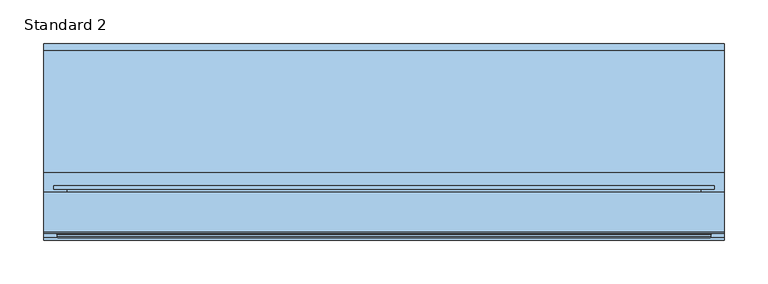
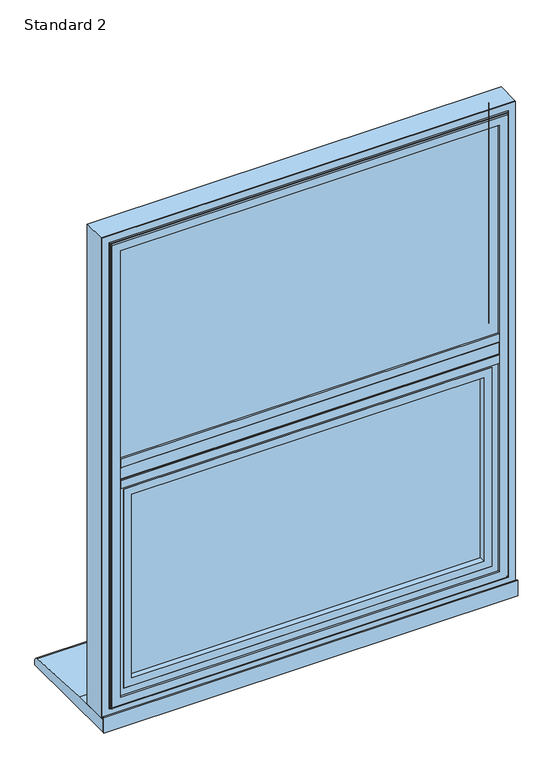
"""IFC4 building model written with IfcOpenShell, lengths in millimetres: window geometry, SMARTS_AlithermHeritage : Standard 2."""

from ifc_helpers import new_model, si_unit, point, frame, frame_2d, origin, place, context, project, spatial, polyline, circle_curve, ellipse_curve, trimmed, segment, composite_curve, outline, extrude, faceted_brep, source, transform, mapped, element, save
from ifc_brep_helpers import plane_surface, cylinder_surface, revolved_surface, advanced_brep


def standard_2_5900fd49(model_context):
    return source(origin(), model_context, "Body", "SolidModel", [
        extrude(outline(polyline([(372.3058544, 95.2798432), (372.3058544, 47.279476), (-372.3058544, 47.279476), (-372.3058544, 95.2798432), (372.3058544, 95.2798432)])), frame((0.0, 0.0, 1098.8058544), z_axis=(0.0, 0.0, 1.0), x_axis=(1.0, 0.0, 0.0)), (0.0, 0.0, 1.0), 27.3882911),
        extrude(outline(composite_curve([segment(polyline([(47.279476, 1083.5), (43.2798432, 1083.5), (43.2798432, 1099.5)]), True, "CONTINUOUS"), segment(trimmed(circle_curve(frame_2d((44.2798432, 1099.5)), 1.0), [point((43.2798432, 1099.5))], [point((44.2798432, 1100.5))], False, "CARTESIAN"), True, "CONTINUOUS"), segment(polyline([(44.2798432, 1100.5), (45.7798432, 1100.5), (45.7798432, 1124.5), (44.2798432, 1124.5)]), True, "CONTINUOUS"), segment(trimmed(circle_curve(frame_2d((44.2798432, 1125.5)), 1.0), [point((44.2798432, 1124.5))], [point((43.2798432, 1125.5))], False, "CARTESIAN"), True, "CONTINUOUS"), segment(polyline([(43.2798432, 1125.5), (43.2798432, 1141.5), (47.279476, 1141.5), (47.279476, 1083.5)]), True, "CONTINUOUS")], self_intersect=False)), frame((-357.0, 0.0, 0.0), z_axis=(1.0, 0.0, 0.0), x_axis=(0.0, 1.0, 0.0)), (0.0, 0.0, 1.0), 714.0),
        extrude(outline(polyline([(-343.5, 89.2798432), (343.5, 89.2798432), (343.5, 85.2798432), (-343.5, 85.2798432), (-343.5, 89.2798432)])), frame((0.0, 0.0, 681.5), z_axis=(0.0, 0.0, 1.0), x_axis=(1.0, 0.0, 0.0)), (0.0, 0.0, 1.0), 388.5),
        extrude(outline(polyline([(-343.5, 69.2798432), (343.5, 69.2798432), (343.5, 65.2798432), (-343.5, 65.2798432), (-343.5, 69.2798432)])), frame((0.0, 0.0, 681.5), z_axis=(0.0, 0.0, 1.0), x_axis=(1.0, 0.0, 0.0)), (0.0, 0.0, 1.0), 388.5),
        extrude(outline(polyline([(1070.0, -343.5), (681.5, -343.5), (681.5, 343.5), (1070.0, 343.5), (1070.0, -343.5)]), holes=[polyline([(1060.0, 333.5), (691.5, 333.5), (691.5, -333.5), (1060.0, -333.5), (1060.0, 333.5)])]), frame((0.0, 69.2798432, 0.0), z_axis=(0.0, 1.0, 0.0), x_axis=(0.0, 0.0, 1.0)), (0.0, 0.0, 1.0), 16.0),
        extrude(outline(polyline([(1073.5052956, -347.0052956), (677.9947044, -347.0052956), (677.9947044, 347.0052956), (1073.5052956, 347.0052956), (1073.5052956, -347.0052956)]), holes=[polyline([(1058.5, 332.0), (693.0, 332.0), (693.0, -332.0), (1058.5, -332.0), (1058.5, 332.0)])]), frame((0.0, 51.2798432, 0.0), z_axis=(0.0, 1.0, 0.0), x_axis=(0.0, 0.0, 1.0)), (0.0, 0.0, 1.0), 11.3),
        extrude(outline(polyline([(662.3548042, -362.6451958), (662.3548042, 362.6451958), (1089.1451958, 362.6451958), (1089.1451958, -362.6451958), (662.3548042, -362.6451958)]), holes=[polyline([(1073.5, -347.0), (1073.5, 347.0), (678.0, 347.0), (678.0, -347.0), (1073.5, -347.0)])]), frame((0.0, 51.2798432, 0.0), z_axis=(0.0, 1.0, 0.0), x_axis=(0.0, 0.0, 1.0)), (0.0, 0.0, 1.0), 41.6),
        advanced_brep(
        [(-332.0, 98.0798432, 1058.5), (-332.0, 92.8798432, 1058.5), (-332.0, 92.8798432, 693.0), (-332.0, 98.0798432, 693.0), (332.0, 92.8798432, 693.0), (332.0, 98.0798432, 693.0), (332.0, 92.8798432, 1058.5), (332.0, 98.0798432, 1058.5), (-378.2, 99.2798432, 1104.7), (-378.2, 103.2798432, 1104.7), (-378.2, 103.2798432, 646.8), (-378.2, 99.2798432, 646.8), (378.2, 103.2798432, 646.8), (378.2, 99.2798432, 646.8), (378.2, 103.2798432, 1104.7), (378.2, 99.2798432, 1104.7), (-363.1467657, 99.2798432, 1089.6467657), (363.1467657, 99.2798432, 1089.6467657), (363.1467657, 99.2798432, 661.8532343), (-363.1467657, 99.2798432, 661.8532343), (-349.2, 103.2798432, 675.8), (349.2, 103.2798432, 675.8), (349.2, 103.2798432, 1075.7), (-349.2, 103.2798432, 1075.7), (-363.1467657, 92.8798432, 1089.6467657), (-363.1467657, 92.8798432, 661.8532343), (363.1467657, 92.8798432, 661.8532343), (363.1467657, 92.8798432, 1089.6467657), (-347.2, 101.2798432, 1073.7), (-347.2, 100.0798432, 1073.7), (-347.2, 100.0798432, 677.8), (-347.2, 101.2798432, 677.8), (-345.2, 98.0798432, 1071.7), (-345.2, 98.0798432, 679.8), (347.2, 100.0798432, 677.8), (347.2, 101.2798432, 677.8), (345.2, 98.0798432, 679.8), (347.2, 100.0798432, 1073.7), (347.2, 101.2798432, 1073.7), (345.2, 98.0798432, 1071.7)],
        [
            (0, 1),
            (1, 2),
            (2, 3),
            (3, 0),
            (2, 4),
            (4, 5),
            (5, 3),
            (4, 6),
            (6, 7),
            (7, 5),
            (6, 1),
            (0, 7),
            (8, 9),
            (9, 10),
            (10, 11),
            (11, 8),
            (10, 12),
            (12, 13),
            (13, 11),
            (12, 14),
            (14, 15),
            (15, 13),
            (15, 8),
            (16, 17),
            (17, 18),
            (18, 19),
            (19, 16),
            (14, 9),
            (20, 21),
            (21, 22),
            (22, 23),
            (23, 20),
            (24, 16),
            (19, 25),
            (25, 24),
            (18, 26),
            (26, 25),
            (17, 27),
            (27, 26),
            (27, 24),
            (28, 29),
            (29, 30),
            (30, 31),
            (31, 28),
            (29, 32, ellipse_curve(frame((-345.2, 100.0798432, 1071.7), z_axis=(0.7071067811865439, 0.0, 0.7071067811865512), x_axis=(0.7071067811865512, 0.0, -0.7071067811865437)), 2.8284271, 2.0)),
            (32, 33),
            (33, 30, ellipse_curve(frame((-345.2, 100.0798432, 679.8), z_axis=(0.7071067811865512, 0.0, -0.7071067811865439), x_axis=(-0.7071067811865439, 0.0, -0.707106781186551)), 2.8284271, 2.0)),
            (30, 34),
            (34, 35),
            (35, 31),
            (33, 36),
            (36, 34, ellipse_curve(frame((345.2, 100.0798432, 679.8), z_axis=(0.7071067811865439, 0.0, 0.7071067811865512), x_axis=(0.707106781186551, 0.0, -0.7071067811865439)), 2.8284271, 2.0)),
            (34, 37),
            (37, 38),
            (38, 35),
            (36, 39),
            (39, 37, ellipse_curve(frame((345.2, 100.0798432, 1071.7), z_axis=(-0.7071067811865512, 0.0, 0.7071067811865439), x_axis=(0.7071067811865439, 0.0, 0.707106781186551)), 2.8284271, 2.0)),
            (32, 39),
            (37, 29),
            (28, 38),
            (23, 28, ellipse_curve(frame((-349.2, 101.2798432, 1075.7), z_axis=(-0.7071067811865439, 0.0, -0.7071067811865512), x_axis=(-0.7071067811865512, 0.0, 0.7071067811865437)), 2.8284271, 2.0)),
            (31, 20, ellipse_curve(frame((-349.2, 101.2798432, 675.8), z_axis=(-0.7071067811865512, 0.0, 0.7071067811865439), x_axis=(0.7071067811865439, 0.0, 0.707106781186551)), 2.8284271, 2.0)),
            (35, 21, ellipse_curve(frame((349.2, 101.2798432, 675.8), z_axis=(-0.7071067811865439, 0.0, -0.7071067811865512), x_axis=(-0.707106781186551, 0.0, 0.7071067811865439)), 2.8284271, 2.0)),
            (38, 22, ellipse_curve(frame((349.2, 101.2798432, 1075.7), z_axis=(0.7071067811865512, 0.0, -0.7071067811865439), x_axis=(-0.7071067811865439, 0.0, -0.707106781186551)), 2.8284271, 2.0)),
        ],
        [
            plane_surface(frame((-332.0, 92.8798432, 1058.5), z_axis=(1.0, 0.0, 0.0), x_axis=(0.0, 0.0, -1.0))),
            plane_surface(frame((-332.0, 92.8798432, 693.0), z_axis=(0.0, 0.0, 1.0), x_axis=(1.0, 0.0, 0.0))),
            plane_surface(frame((332.0, 92.8798432, 693.0), z_axis=(-1.0, 0.0, 0.0), x_axis=(0.0, 0.0, 1.0))),
            plane_surface(frame((332.0, 92.8798432, 1058.5), z_axis=(0.0, 0.0, -1.0), x_axis=(-1.0, 0.0, 0.0))),
            plane_surface(frame((-378.2, 103.2798432, 1104.7), z_axis=(-1.0, 0.0, 0.0), x_axis=(0.0, 0.0, -1.0))),
            plane_surface(frame((-378.2, 103.2798432, 646.8), z_axis=(0.0, 0.0, -1.0), x_axis=(1.0, 0.0, 0.0))),
            plane_surface(frame((378.2, 103.2798432, 646.8), z_axis=(1.0, 0.0, 0.0), x_axis=(0.0, 0.0, 1.0))),
            plane_surface(frame((378.2, 99.2798432, 1104.7), z_axis=(0.0, -1.0, 0.0), x_axis=(-1.0, 0.0, 0.0))),
            plane_surface(frame((378.2, 103.2798432, 1104.7), z_axis=(0.0, 0.0, 1.0), x_axis=(-1.0, 0.0, 0.0))),
            plane_surface(frame((349.2, 103.2798432, 1075.7), z_axis=(0.0, 1.0, 0.0), x_axis=(-1.0, 0.0, 0.0))),
            plane_surface(frame((-363.1467657, 99.2798432, 1089.6467657), z_axis=(-1.0, 0.0, 0.0), x_axis=(0.0, 0.0, -1.0))),
            plane_surface(frame((-363.1467657, 99.2798432, 661.8532343), z_axis=(0.0, 0.0, -1.0), x_axis=(1.0, 0.0, 0.0))),
            plane_surface(frame((363.1467657, 99.2798432, 661.8532343), z_axis=(1.0, 0.0, 0.0), x_axis=(0.0, 0.0, 1.0))),
            plane_surface(frame((363.1467657, 92.8798432, 1089.6467657), z_axis=(0.0, -1.0, 0.0), x_axis=(-1.0, 0.0, 0.0))),
            plane_surface(frame((363.1467657, 99.2798432, 1089.6467657), z_axis=(0.0, 0.0, 1.0), x_axis=(-1.0, 0.0, 0.0))),
            plane_surface(frame((-347.2, 100.0798432, 1073.7), z_axis=(1.0, 0.0, 0.0), x_axis=(0.0, 0.0, -1.0))),
            revolved_surface(polyline([(-347.2, 100.0798432, 677.8), (-347.2, 100.0798432, 1073.7)]), (-345.2, 100.0798432, 1083.5), (0.0, 0.0, -1.0)),
            plane_surface(frame((-347.2, 100.0798432, 677.8), z_axis=(0.0, 0.0, 1.0), x_axis=(1.0, 0.0, 0.0))),
            revolved_surface(polyline([(347.20000000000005, 100.0798432, 677.8), (-347.2, 100.0798432, 677.8)]), (-357.0, 100.0798432, 679.8), (1.0, 0.0, 0.0)),
            plane_surface(frame((347.2, 100.0798432, 677.8), z_axis=(-1.0, 0.0, 0.0), x_axis=(0.0, 0.0, 1.0))),
            revolved_surface(polyline([(347.2, 100.0798432, 1073.7), (347.2, 100.0798432, 677.8)]), (345.2, 100.0798432, 668.0), (0.0, 0.0, 1.0)),
            plane_surface(frame((332.0, 98.0798432, 1058.5), z_axis=(0.0, 1.0, 0.0), x_axis=(-1.0, 0.0, 0.0))),
            plane_surface(frame((347.2, 100.0798432, 1073.7), z_axis=(0.0, 0.0, -1.0), x_axis=(-1.0, 0.0, 0.0))),
            revolved_surface(polyline([(-347.20000000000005, 100.0798432, 1073.7), (347.2, 100.0798432, 1073.7)]), (357.0, 100.0798432, 1071.7), (-1.0, 0.0, 0.0)),
            cylinder_surface(frame((-349.2, 101.2798432, 1083.5), z_axis=(0.0, 0.0, 1.0), x_axis=(-1.0, 0.0, 0.0)), 2.0),
            cylinder_surface(frame((-357.0, 101.2798432, 675.8), z_axis=(-1.0, 0.0, 0.0), x_axis=(0.0, 0.0, -1.0)), 2.0),
            cylinder_surface(frame((349.2, 101.2798432, 668.0), z_axis=(0.0, 0.0, -1.0), x_axis=(1.0, 0.0, 0.0)), 2.0),
            cylinder_surface(frame((357.0, 101.2798432, 1075.7), z_axis=(1.0, 0.0, 0.0), x_axis=(0.0, 0.0, 1.0)), 2.0),
        ],
        [
            (0, [[1, 2, 3, 4]]),
            (1, [[-3, 5, 6, 7]]),
            (2, [[-6, 8, 9, 10]]),
            (3, [[-9, 11, -1, 12]]),
            (4, [[13, 14, 15, 16]]),
            (5, [[-15, 17, 18, 19]]),
            (6, [[-18, 20, 21, 22]]),
            (7, [[-19, -22, 23, -16], [24, 25, 26, 27]]),
            (8, [[-21, 28, -13, -23]]),
            (9, [[-28, -20, -17, -14], [29, 30, 31, 32]]),
            (10, [[33, -27, 34, 35]]),
            (11, [[-34, -26, 36, 37]]),
            (12, [[-36, -25, 38, 39]]),
            (13, [[-37, -39, 40, -35], [-11, -8, -5, -2]]),
            (14, [[-38, -24, -33, -40]]),
            (15, [[41, 42, 43, 44]]),
            (16, [[45, 46, 47, -42]]),
            (17, [[-43, 48, 49, 50]]),
            (18, [[-47, 51, 52, -48]]),
            (19, [[-49, 53, 54, 55]]),
            (20, [[-52, 56, 57, -53]]),
            (21, [[58, -56, -51, -46], [-7, -10, -12, -4]]),
            (22, [[-54, 59, -41, 60]]),
            (23, [[-57, -58, -45, -59]]),
            (24, [[61, -44, 62, -32]]),
            (25, [[-62, -50, 63, -29]]),
            (26, [[-63, -55, 64, -30]]),
            (27, [[-64, -60, -61, -31]]),
        ],
    ),
        extrude(outline(polyline([(1590.0, 390.0), (1590.0, -390.0), (635.0, -390.0), (635.0, 390.0), (1590.0, 390.0)]), holes=[polyline([(652.7000182, 372.2999818), (652.7000182, -372.2999818), (1572.2999818, -372.2999818), (1572.2999818, 372.2999818), (652.7000182, 372.2999818)])]), frame((0.0, 50.279857, 0.0), z_axis=(0.0, 1.0, 0.0), x_axis=(0.0, 0.0, 1.0)), (0.0, 0.0, 1.0), 44.9999962),
        advanced_brep(
        [(357.0, 43.2798432, 1557.0), (357.0, 47.2798432, 1557.0), (357.0, 47.2798432, 668.0), (357.0, 43.2798432, 668.0), (390.0, 50.279857, 1590.0), (390.0, 48.279857, 1590.0), (390.0, 48.279857, 635.0), (390.0, 50.279857, 635.0), (372.4999818, 43.2798432, 1572.4999818), (-372.4999818, 43.2798432, 1572.4999818), (-372.4999818, 43.2798432, 652.5000182), (372.4999818, 43.2798432, 652.5000182), (-357.0, 43.2798432, 668.0), (-357.0, 43.2798432, 1557.0), (-390.0, 50.279857, 1590.0), (-390.0, 48.279857, 1590.0), (-390.0, 50.279857, 635.0), (372.2999818, 50.279857, 1572.2999818), (-372.2999818, 50.279857, 1572.2999818), (-372.2999818, 50.279857, 652.7000182), (372.2999818, 50.279857, 652.7000182), (-357.0, 47.2798432, 1557.0), (-357.0, 47.2798432, 668.0), (-390.0, 48.279857, 635.0), (-372.2999818, 47.2798432, 1572.2999818), (372.2999818, 47.2798432, 1572.2999818), (372.2999818, 47.2798432, 652.7000182), (374.4999818, 46.779857, 650.5000182), (374.4999818, 45.2798432, 650.5000182), (-374.4999818, 45.2798432, 650.5000182), (-374.4999818, 46.779857, 650.5000182), (374.4999818, 46.779857, 1574.4999818), (374.4999818, 45.2798432, 1574.4999818), (-372.2999818, 47.2798432, 652.7000182), (-374.4999818, 45.2798432, 1574.4999818), (-374.4999818, 46.779857, 1574.4999818), (375.9999818, 48.279857, 1575.9999818), (375.9999818, 48.279857, 649.0000182), (-375.9999818, 48.279857, 649.0000182), (-375.9999818, 48.279857, 1575.9999818)],
        [
            (0, 1),
            (1, 2),
            (2, 3),
            (3, 0),
            (4, 5),
            (5, 6),
            (6, 7),
            (7, 4),
            (8, 9),
            (9, 10),
            (10, 11),
            (11, 8),
            (3, 12),
            (12, 13),
            (13, 0),
            (14, 15),
            (15, 5),
            (4, 14),
            (7, 16),
            (16, 14),
            (17, 18),
            (18, 19),
            (19, 20),
            (20, 17),
            (13, 21),
            (21, 1),
            (2, 22),
            (22, 12),
            (22, 21),
            (6, 23),
            (23, 16),
            (23, 15),
            (24, 18),
            (17, 25),
            (25, 24),
            (20, 26),
            (26, 25),
            (27, 28),
            (28, 29),
            (29, 30),
            (30, 27),
            (31, 32),
            (32, 28),
            (27, 31),
            (19, 33),
            (33, 26),
            (24, 33),
            (29, 34),
            (34, 35),
            (35, 30),
            (34, 32),
            (31, 35),
            (36, 31, ellipse_curve(frame((375.9999818, 46.779857, 1575.9999818), z_axis=(-0.7071067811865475, 0.0, 0.7071067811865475), x_axis=(-0.7071067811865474, 0.0, -0.7071067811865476)), 2.1213203, 1.5)),
            (27, 37, ellipse_curve(frame((375.9999818, 46.779857, 649.0000182), z_axis=(-0.7071067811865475, 0.0, -0.7071067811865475), x_axis=(0.7071067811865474, 0.0, -0.7071067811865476)), 2.1213203, 1.5)),
            (37, 36),
            (30, 38, ellipse_curve(frame((-375.9999818, 46.779857, 649.0000182), z_axis=(-0.7071067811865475, 0.0, 0.7071067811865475), x_axis=(-0.7071067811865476, 0.0, -0.7071067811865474)), 2.1213203, 1.5)),
            (38, 37),
            (35, 39, ellipse_curve(frame((-375.9999818, 46.779857, 1575.9999818), z_axis=(0.7071067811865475, 0.0, 0.7071067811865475), x_axis=(-0.7071067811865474, 0.0, 0.7071067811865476)), 2.1213203, 1.5)),
            (39, 38),
            (36, 39),
            (32, 8, ellipse_curve(frame((372.4999818, 45.2798432, 1572.4999818), z_axis=(0.7071067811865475, 0.0, -0.7071067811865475), x_axis=(0.7071067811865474, 0.0, 0.7071067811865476)), 2.8284271, 2.0)),
            (11, 28, ellipse_curve(frame((372.4999818, 45.2798432, 652.5000182), z_axis=(0.7071067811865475, 0.0, 0.7071067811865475), x_axis=(-0.7071067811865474, 0.0, 0.7071067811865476)), 2.8284271, 2.0)),
            (10, 29, ellipse_curve(frame((-372.4999818, 45.2798432, 652.5000182), z_axis=(0.7071067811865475, 0.0, -0.7071067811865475), x_axis=(0.7071067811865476, 0.0, 0.7071067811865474)), 2.8284271, 2.0)),
            (9, 34, ellipse_curve(frame((-372.4999818, 45.2798432, 1572.4999818), z_axis=(-0.7071067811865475, 0.0, -0.7071067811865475), x_axis=(0.7071067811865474, 0.0, -0.7071067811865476)), 2.8284271, 2.0)),
        ],
        [
            plane_surface(frame((357.0, 47.2798432, 1557.0), z_axis=(-1.0, 0.0, 0.0), x_axis=(0.0, 0.0, -1.0))),
            plane_surface(frame((390.0, 48.279857, 1590.0), z_axis=(1.0, 0.0, 0.0), x_axis=(0.0, 0.0, -1.0))),
            plane_surface(frame((-357.0, 43.2798432, 1557.0), z_axis=(0.0, -1.0, 0.0), x_axis=(1.0, 0.0, 0.0))),
            plane_surface(frame((-390.0, 48.279857, 1590.0), z_axis=(0.0, 0.0, 1.0), x_axis=(1.0, 0.0, 0.0))),
            plane_surface(frame((-390.0, 50.279857, 1590.0), z_axis=(0.0, 1.0, 0.0), x_axis=(1.0, 0.0, 0.0))),
            plane_surface(frame((-357.0, 47.2798432, 1557.0), z_axis=(0.0, 0.0, -1.0), x_axis=(1.0, 0.0, 0.0))),
            plane_surface(frame((357.0, 47.2798432, 668.0), z_axis=(0.0, 0.0, 1.0), x_axis=(-1.0, 0.0, 0.0))),
            plane_surface(frame((-357.0, 47.2798432, 668.0), z_axis=(1.0, 0.0, 0.0), x_axis=(0.0, 0.0, 1.0))),
            plane_surface(frame((390.0, 48.279857, 635.0), z_axis=(0.0, 0.0, -1.0), x_axis=(-1.0, 0.0, 0.0))),
            plane_surface(frame((-390.0, 48.279857, 635.0), z_axis=(-1.0, 0.0, 0.0), x_axis=(0.0, 0.0, 1.0))),
            plane_surface(frame((-372.2999818, 50.279857, 1572.2999818), z_axis=(0.0, 0.0, -1.0), x_axis=(1.0, 0.0, 0.0))),
            plane_surface(frame((372.2999818, 50.279857, 1572.2999818), z_axis=(-1.0, 0.0, 0.0), x_axis=(0.0, 0.0, -1.0))),
            plane_surface(frame((374.4999818, 45.2798432, 650.5000182), z_axis=(0.0, 0.0, -1.0), x_axis=(-1.0, 0.0, 0.0))),
            plane_surface(frame((374.4999818, 45.2798432, 1574.4999818), z_axis=(1.0, 0.0, 0.0), x_axis=(0.0, 0.0, -1.0))),
            plane_surface(frame((372.2999818, 50.279857, 652.7000182), z_axis=(0.0, 0.0, 1.0), x_axis=(-1.0, 0.0, 0.0))),
            plane_surface(frame((-372.2999818, 50.279857, 652.7000182), z_axis=(1.0, 0.0, 0.0), x_axis=(0.0, 0.0, 1.0))),
            plane_surface(frame((-374.4999818, 45.2798432, 650.5000182), z_axis=(-1.0, 0.0, 0.0), x_axis=(0.0, 0.0, 1.0))),
            plane_surface(frame((-372.2999818, 47.2798432, 1572.2999818), z_axis=(0.0, 1.0, 0.0), x_axis=(1.0, 0.0, 0.0))),
            plane_surface(frame((-374.4999818, 45.2798432, 1574.4999818), z_axis=(0.0, 0.0, 1.0), x_axis=(1.0, 0.0, 0.0))),
            revolved_surface(polyline([(374.4999818, 46.779857, 647.5000182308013), (374.4999818, 46.779857, 1577.4999817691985)]), (375.9999818, 46.779857, 1590.0), (0.0, 0.0, -1.0)),
            revolved_surface(polyline([(-377.4999817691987, 46.779857, 650.5000182), (377.49998176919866, 46.779857, 650.5000182)]), (390.0, 46.779857, 649.0000182), (-1.0, 0.0, 0.0)),
            revolved_surface(polyline([(-374.4999818, 46.779857, 1577.4999817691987), (-374.4999818, 46.779857, 647.5000182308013)]), (-375.9999818, 46.779857, 635.0), (0.0, 0.0, 1.0)),
            revolved_surface(polyline([(377.4999817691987, 46.779857, 1574.4999818), (-377.49998176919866, 46.779857, 1574.4999818)]), (-390.0, 46.779857, 1575.9999818), (1.0, 0.0, 0.0)),
            plane_surface(frame((-375.9999818, 48.279857, 1575.9999818), z_axis=(0.0, -1.0, 0.0), x_axis=(1.0, 0.0, 0.0))),
            cylinder_surface(frame((372.4999818, 45.2798432, 1590.0), z_axis=(0.0, 0.0, 1.0), x_axis=(-1.0, 0.0, 0.0)), 2.0),
            cylinder_surface(frame((390.0, 45.2798432, 652.5000182), z_axis=(1.0, 0.0, 0.0), x_axis=(0.0, 0.0, 1.0)), 2.0),
            cylinder_surface(frame((-372.4999818, 45.2798432, 635.0), z_axis=(0.0, 0.0, -1.0), x_axis=(1.0, 0.0, 0.0)), 2.0),
            cylinder_surface(frame((-390.0, 45.2798432, 1572.4999818), z_axis=(-1.0, 0.0, 0.0), x_axis=(0.0, 0.0, -1.0)), 2.0),
        ],
        [
            (0, [[1, 2, 3, 4]]),
            (1, [[5, 6, 7, 8]]),
            (2, [[9, 10, 11, 12], [13, 14, 15, -4]]),
            (3, [[16, 17, -5, 18]]),
            (4, [[19, 20, -18, -8], [21, 22, 23, 24]]),
            (5, [[25, 26, -1, -15]]),
            (6, [[-3, 27, 28, -13]]),
            (7, [[-28, 29, -25, -14]]),
            (8, [[-7, 30, 31, -19]]),
            (9, [[-31, 32, -16, -20]]),
            (10, [[33, -21, 34, 35]]),
            (11, [[-34, -24, 36, 37]]),
            (12, [[38, 39, 40, 41]]),
            (13, [[42, 43, -38, 44]]),
            (14, [[-36, -23, 45, 46]]),
            (15, [[-45, -22, -33, 47]]),
            (16, [[-40, 48, 49, 50]]),
            (17, [[-46, -47, -35, -37], [-26, -29, -27, -2]]),
            (18, [[-49, 51, -42, 52]]),
            (19, [[53, -44, 54, 55]]),
            (20, [[-54, -41, 56, 57]]),
            (21, [[-56, -50, 58, 59]]),
            (22, [[-58, -52, -53, 60]]),
            (23, [[-17, -32, -30, -6], [-57, -59, -60, -55]]),
            (24, [[61, -12, 62, -43]]),
            (25, [[-62, -11, 63, -39]]),
            (26, [[-63, -10, 64, -48]]),
            (27, [[-64, -9, -61, -51]]),
        ],
    ),
        extrude(outline(polyline([(-367.0, 75.2798432), (367.0, 75.2798432), (367.0, 71.2798432), (-367.0, 71.2798432), (-367.0, 75.2798432)])), frame((0.0, 0.0, 1131.5), z_axis=(0.0, 0.0, 1.0), x_axis=(1.0, 0.0, 0.0)), (0.0, 0.0, 1.0), 435.5),
        extrude(outline(polyline([(-367.0, 55.2798432), (367.0, 55.2798432), (367.0, 51.2798432), (-367.0, 51.2798432), (-367.0, 55.2798432)])), frame((0.0, 0.0, 1131.5), z_axis=(0.0, 0.0, 1.0), x_axis=(1.0, 0.0, 0.0)), (0.0, 0.0, 1.0), 435.5),
        extrude(outline(polyline([(1567.0, -367.0), (1131.5, -367.0), (1131.5, 367.0), (1567.0, 367.0), (1567.0, -367.0)]), holes=[polyline([(1557.0, 357.0), (1141.5, 357.0), (1141.5, -357.0), (1557.0, -357.0), (1557.0, 357.0)])]), frame((0.0, 55.2798432, 0.0), z_axis=(0.0, 1.0, 0.0), x_axis=(0.0, 0.0, 1.0)), (0.0, 0.0, 1.0), 16.0),
        faceted_brep([(366.8148849, 95.2798432, 1566.8148849), (357.0, 78.2798098, 1557.0), (-357.0, 78.2798098, 1557.0), (-366.8148849, 95.2798432, 1566.8148849), (372.3702676, 78.2798098, 1572.3702676), (372.3702676, 95.2798432, 1572.3702676), (-372.3702676, 95.2798432, 1572.3702676), (-372.3702676, 78.2798098, 1572.3702676), (-372.3702676, 78.2798098, 1126.1297324), (-372.3702676, 95.2798432, 1126.1297324), (372.3702676, 95.2798432, 1126.1297324), (372.3702676, 78.2798098, 1126.1297324), (-366.8148849, 95.2798432, 1131.6851151), (366.8148849, 95.2798432, 1131.6851151), (357.0, 78.2798098, 1141.5), (-357.0, 78.2798098, 1141.5)], [[[0, 1, 2, 3]], [[4, 5, 6, 7]], [[8, 9, 10, 11]], [[5, 10, 9, 6], [3, 12, 13, 0]], [[7, 8, 11, 4], [1, 14, 15, 2]], [[3, 2, 15, 12]], [[7, 6, 9, 8]], [[12, 15, 14, 13]], [[13, 14, 1, 0]], [[11, 10, 5, 4]]]),
        extrude(outline(polyline([(390.0, 43.2798432), (390.0, 40.7798432), (-390.0, 40.7798432), (-390.0, 43.2798432), (390.0, 43.2798432)])), frame((0.0, 0.0, 610.0), z_axis=(0.0, 0.0, 1.0), x_axis=(1.0, 0.0, 0.0)), (0.0, 0.0, 1.0), 31.0),
        extrude(outline(composite_curve([segment(polyline([(265.7798432, 610.0), (43.2798432, 610.0), (43.2798432, 635.0), (118.7798432, 635.0), (258.4770891, 625.9276664)]), True, "CONTINUOUS"), segment(trimmed(circle_curve(frame_2d((257.7798432, 617.9581088)), 8.0), [point((258.4770891, 625.9276664))], [point((265.7798432, 617.9581088))], False, "CARTESIAN"), True, "CONTINUOUS"), segment(polyline([(265.7798432, 617.9581088), (265.7798432, 610.0)]), True, "CONTINUOUS")], self_intersect=False)), frame((-390.0, 0.0, 0.0), z_axis=(1.0, 0.0, 0.0), x_axis=(0.0, 1.0, 0.0)), (0.0, 0.0, 1.0), 780.0),
    ])


if __name__ == "__main__":
    model = new_model("IFC4")
    model_context = context("Model", 3, world=origin())
    ifc_project = project(units=[si_unit("LENGTHUNIT", "METRE", prefix="MILLI")], contexts=[model_context])
    site = spatial("IfcSite", under=ifc_project)
    building = spatial("IfcBuilding", under=site)
    placement = place(None, origin())
    standard_2_shape = standard_2_5900fd49(model_context)
    element("IfcWindow", 1, ObjectType="SMARTS_AlithermHeritage : Standard 2", at=placement, inside=building, context=model_context, shape_type="MappedRepresentation", body=[
        mapped(standard_2_shape, transform((0.0, 0.0, 0.0), x_axis=(1.0, 0.0, 0.0), y_axis=(0.0, 1.0, 0.0), z_axis=(0.0, 0.0, 1.0))),
    ])
    save(model, "model.ifc")
